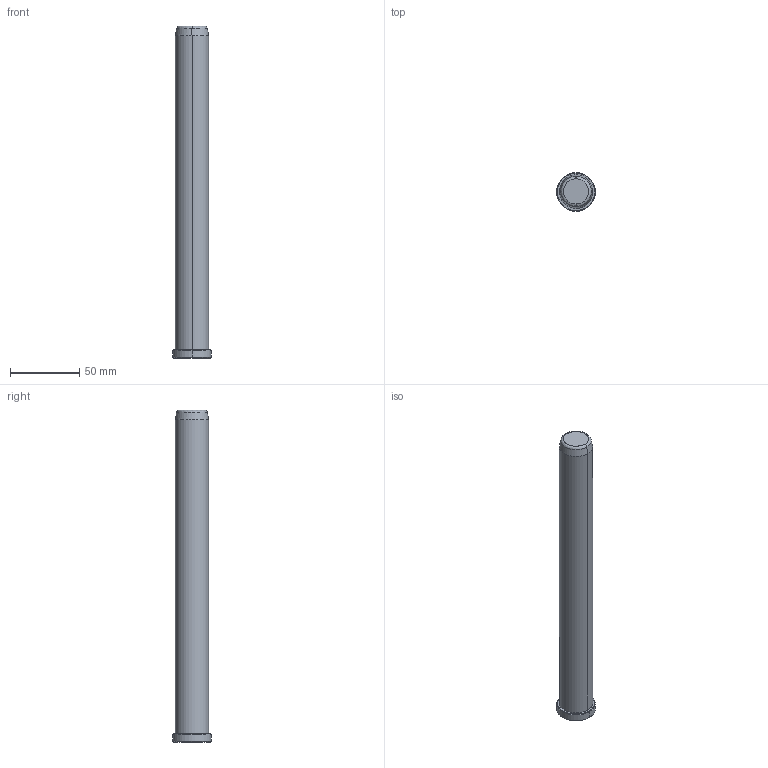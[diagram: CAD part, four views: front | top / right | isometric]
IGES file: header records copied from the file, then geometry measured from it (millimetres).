
Start section: START RECORD GO HERE.
Global section: file name: B81824240.igs; native system: DASSAULT SYSTEMES CATIA V5 R20 - www.3ds.com; preprocessor: CATIA Version 5 Release 20 ; author: Utente; organization: NB04-ASUS; date: 20200419.172138; units: millimetre
Bounding box: 28 x 28 x 240 mm (x, y, z)
Surface area: 19203.1 mm2 (no closed solid volume)
Topology: 0 solids, 0 shells, 17 faces, 68 edges, 68 vertices
Faces by surface type: revolution 14, plane 3
